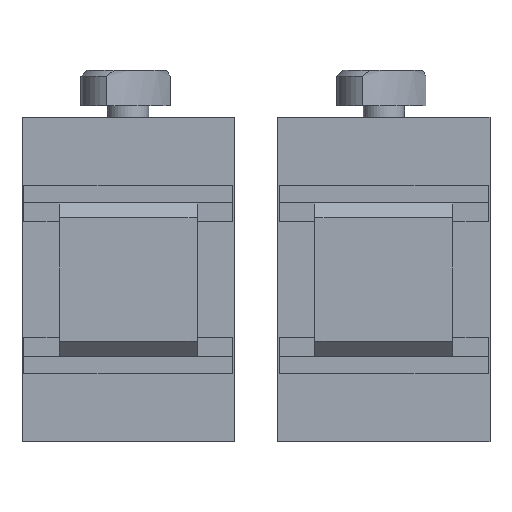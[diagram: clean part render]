
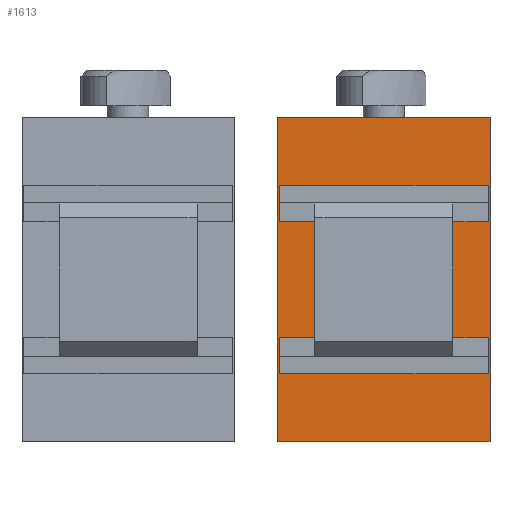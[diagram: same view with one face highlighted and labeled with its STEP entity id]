
A CAD part, front view. The second image highlights one B-rep face of the part: STEP entity #1613.
In plain terms, the highlighted planar face has unit normal (0, -1, 0).
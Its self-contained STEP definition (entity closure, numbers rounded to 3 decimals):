
#30 = VECTOR ( 'NONE', #1665, 1000. ) ;
#51 = LINE ( 'NONE', #1682, #30 ) ;
#54 = DIRECTION ( 'NONE',  ( -1., 0., 0. ) ) ;
#80 = CARTESIAN_POINT ( 'NONE',  ( -13., 9.2, -11.7 ) ) ;
#156 = VERTEX_POINT ( 'NONE', #269 ) ;
#192 = CARTESIAN_POINT ( 'NONE',  ( -13., 9.2, 11.7 ) ) ;
#198 = FACE_OUTER_BOUND ( 'NONE', #1094, .T. ) ;
#202 = FACE_BOUND ( 'NONE', #2041, .T. ) ;
#269 = CARTESIAN_POINT ( 'NONE',  ( 27.5, 9.2, 18. ) ) ;
#310 = VECTOR ( 'NONE', #1225, 1000. ) ;
#315 = LINE ( 'NONE', #1224, #310 ) ;
#323 = ORIENTED_EDGE ( 'NONE', *, *, #970, .T. ) ;
#353 = VERTEX_POINT ( 'NONE', #192 ) ;
#355 = CARTESIAN_POINT ( 'NONE',  ( 27.5, 9.2, 18. ) ) ;
#416 = DIRECTION ( 'NONE',  ( -1., 0., 0. ) ) ;
#446 = ORIENTED_EDGE ( 'NONE', *, *, #1328, .T. ) ;
#458 = CARTESIAN_POINT ( 'NONE',  ( 27.5, 9.2, 11.7 ) ) ;
#486 = VECTOR ( 'NONE', #1546, 1000. ) ;
#489 = LINE ( 'NONE', #645, #486 ) ;
#519 = VERTEX_POINT ( 'NONE', #943 ) ;
#645 = CARTESIAN_POINT ( 'NONE',  ( -13., 9.2, -18. ) ) ;
#649 = VECTOR ( 'NONE', #54, 1000. ) ;
#654 = LINE ( 'NONE', #458, #649 ) ;
#722 = ORIENTED_EDGE ( 'NONE', *, *, #1509, .F. ) ;
#734 = DIRECTION ( 'NONE',  ( 0., 0., -1. ) ) ;
#773 = CARTESIAN_POINT ( 'NONE',  ( 27.5, 9.2, -11.7 ) ) ;
#775 = AXIS2_PLACEMENT_3D ( 'NONE', #1335, #1389, #1390 ) ;
#799 = VECTOR ( 'NONE', #734, 1000. ) ;
#803 = LINE ( 'NONE', #773, #799 ) ;
#826 = VECTOR ( 'NONE', #1735, 1000. ) ;
#856 = ORIENTED_EDGE ( 'NONE', *, *, #1175, .F. ) ;
#870 = LINE ( 'NONE', #882, #826 ) ;
#882 = CARTESIAN_POINT ( 'NONE',  ( -27.5, 9.2, 11.7 ) ) ;
#943 = CARTESIAN_POINT ( 'NONE',  ( -27.5, 9.2, 18. ) ) ;
#963 = VERTEX_POINT ( 'NONE', #80 ) ;
#970 = EDGE_CURVE ( 'NONE', #156, #519, #993, .T. ) ;
#976 = VECTOR ( 'NONE', #416, 1000. ) ;
#993 = LINE ( 'NONE', #355, #976 ) ;
#1045 = EDGE_CURVE ( 'NONE', #519, #1319, #870, .T. ) ;
#1066 = EDGE_CURVE ( 'NONE', #156, #1917, #803, .T. ) ;
#1067 = ORIENTED_EDGE ( 'NONE', *, *, #1066, .F. ) ;
#1086 = CARTESIAN_POINT ( 'NONE',  ( -27.5, 9.2, -18. ) ) ;
#1094 = EDGE_LOOP ( 'NONE', ( #1340, #722, #1067, #323 ) ) ;
#1106 = CARTESIAN_POINT ( 'NONE',  ( 13., 9.2, -18. ) ) ;
#1162 = ORIENTED_EDGE ( 'NONE', *, *, #2086, .F. ) ;
#1166 = CARTESIAN_POINT ( 'NONE',  ( 13., 9.2, -11.7 ) ) ;
#1175 = EDGE_CURVE ( 'NONE', #1986, #353, #654, .T. ) ;
#1224 = CARTESIAN_POINT ( 'NONE',  ( 27.5, 9.2, -18. ) ) ;
#1225 = DIRECTION ( 'NONE',  ( -1., 0., 0. ) ) ;
#1319 = VERTEX_POINT ( 'NONE', #1086 ) ;
#1328 = EDGE_CURVE ( 'NONE', #963, #353, #489, .T. ) ;
#1335 = CARTESIAN_POINT ( 'NONE',  ( 27.5, 9.2, 11.7 ) ) ;
#1339 = VECTOR ( 'NONE', #1561, 1000. ) ;
#1340 = ORIENTED_EDGE ( 'NONE', *, *, #1045, .T. ) ;
#1375 = LINE ( 'NONE', #1106, #1339 ) ;
#1385 = PLANE ( 'NONE',  #775 ) ;
#1389 = DIRECTION ( 'NONE',  ( 0., 1., 0. ) ) ;
#1390 = DIRECTION ( 'NONE',  ( 0., 0., 1. ) ) ;
#1446 = VERTEX_POINT ( 'NONE', #1166 ) ;
#1509 = EDGE_CURVE ( 'NONE', #1917, #1319, #315, .T. ) ;
#1546 = DIRECTION ( 'NONE',  ( 0., 0., 1. ) ) ;
#1561 = DIRECTION ( 'NONE',  ( 0., 0., 1. ) ) ;
#1610 = CARTESIAN_POINT ( 'NONE',  ( 27.5, 9.2, -18. ) ) ;
#1613 = ADVANCED_FACE ( 'NONE', ( #202, #198 ), #1385, .F. ) ;
#1665 = DIRECTION ( 'NONE',  ( -1., 0., 0. ) ) ;
#1682 = CARTESIAN_POINT ( 'NONE',  ( 27.5, 9.2, -11.7 ) ) ;
#1708 = EDGE_CURVE ( 'NONE', #1446, #963, #51, .T. ) ;
#1735 = DIRECTION ( 'NONE',  ( 0., 0., -1. ) ) ;
#1823 = ORIENTED_EDGE ( 'NONE', *, *, #1708, .T. ) ;
#1845 = CARTESIAN_POINT ( 'NONE',  ( 13., 9.2, 11.7 ) ) ;
#1917 = VERTEX_POINT ( 'NONE', #1610 ) ;
#1986 = VERTEX_POINT ( 'NONE', #1845 ) ;
#2041 = EDGE_LOOP ( 'NONE', ( #1162, #1823, #446, #856 ) ) ;
#2086 = EDGE_CURVE ( 'NONE', #1446, #1986, #1375, .T. ) ;
